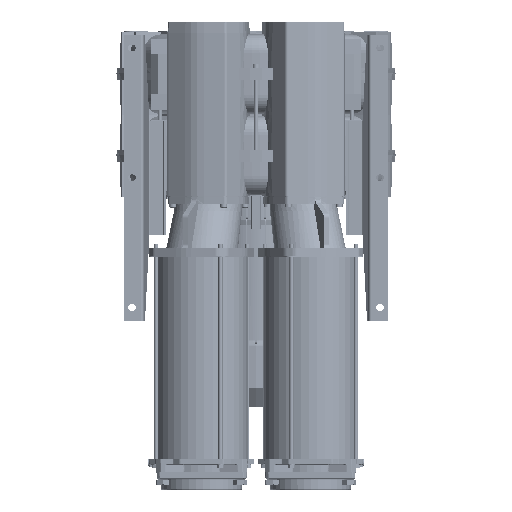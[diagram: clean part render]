
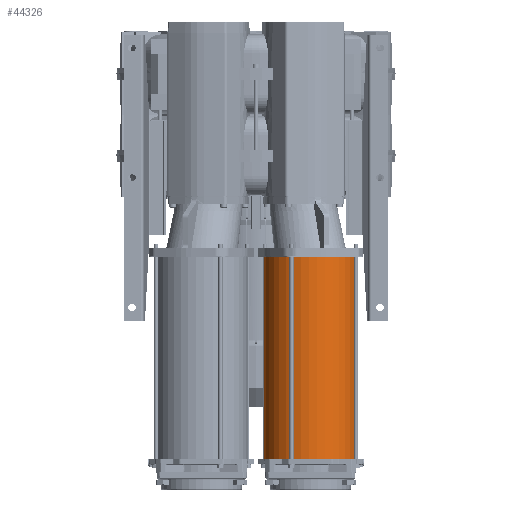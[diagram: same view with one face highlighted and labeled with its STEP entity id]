
A CAD part, front view. The second image highlights one B-rep face of the part: STEP entity #44326.
In plain terms, the highlighted cylindrical face has radius 90 mm (diameter 180 mm), a full revolution.
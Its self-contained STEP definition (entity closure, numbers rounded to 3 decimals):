
#2026 = FACE_OUTER_BOUND ( 'NONE', #95299, .T. ) ;
#2684 = CARTESIAN_POINT ( 'NONE',  ( 104.777, -252.953, 48.5 ) ) ;
#5610 = VERTEX_POINT ( 'NONE', #146886 ) ;
#6926 = CIRCLE ( 'NONE', #41280, 90. ) ;
#21189 = AXIS2_PLACEMENT_3D ( 'NONE', #77413, #27047, #127863 ) ;
#27047 = DIRECTION ( 'NONE',  ( 0., 0., 1. ) ) ;
#35793 = AXIS2_PLACEMENT_3D ( 'NONE', #115275, #137661, #63192 ) ;
#39237 = FACE_OUTER_BOUND ( 'NONE', #160884, .T. ) ;
#41280 = AXIS2_PLACEMENT_3D ( 'NONE', #2684, #104336, #53092 ) ;
#44326 = ADVANCED_FACE ( 'NONE', ( #39237, #2026 ), #163195, .T. ) ;
#45543 = CARTESIAN_POINT ( 'NONE',  ( 164.658, -185.766, 48.5 ) ) ;
#52240 = EDGE_CURVE ( 'NONE', #5610, #5610, #71312, .T. ) ;
#53092 = DIRECTION ( 'NONE',  ( 0.665, 0.747, 0. ) ) ;
#63192 = DIRECTION ( 'NONE',  ( -0.665, -0.747, 0. ) ) ;
#71312 = CIRCLE ( 'NONE', #21189, 90. ) ;
#77413 = CARTESIAN_POINT ( 'NONE',  ( 104.777, -252.953, -340.5 ) ) ;
#95299 = EDGE_LOOP ( 'NONE', ( #142501 ) ) ;
#104336 = DIRECTION ( 'NONE',  ( 0., 0., -1. ) ) ;
#115275 = CARTESIAN_POINT ( 'NONE',  ( 104.777, -252.953, -341. ) ) ;
#118311 = ORIENTED_EDGE ( 'NONE', *, *, #134596, .T. ) ;
#127863 = DIRECTION ( 'NONE',  ( 0.665, 0.747, 0. ) ) ;
#133993 = VERTEX_POINT ( 'NONE', #45543 ) ;
#134596 = EDGE_CURVE ( 'NONE', #133993, #133993, #6926, .T. ) ;
#137661 = DIRECTION ( 'NONE',  ( 0., 0., 1. ) ) ;
#142501 = ORIENTED_EDGE ( 'NONE', *, *, #52240, .T. ) ;
#146886 = CARTESIAN_POINT ( 'NONE',  ( 164.658, -185.766, -340.5 ) ) ;
#160884 = EDGE_LOOP ( 'NONE', ( #118311 ) ) ;
#163195 = CYLINDRICAL_SURFACE ( 'NONE', #35793, 90. ) ;
